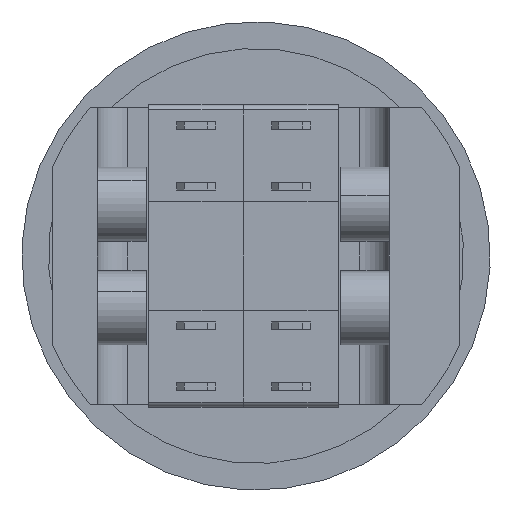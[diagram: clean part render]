
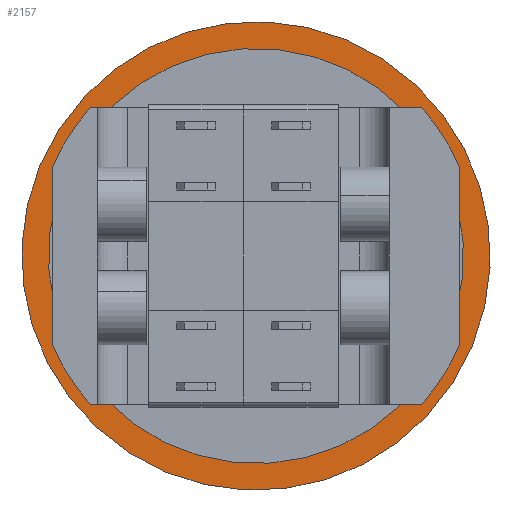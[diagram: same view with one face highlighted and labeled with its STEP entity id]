
A CAD part, front view. The second image highlights one B-rep face of the part: STEP entity #2157.
In plain terms, the highlighted planar face has unit normal (0, -1, 0) as drawn and (0, 0, -1) by its records, which use the part's own axes.
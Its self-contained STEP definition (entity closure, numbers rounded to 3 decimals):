
#17 = DIRECTION ( 'NONE',  ( 0., 0., 1. ) ) ;
#57 = ORIENTED_EDGE ( 'NONE', *, *, #2233, .F. ) ;
#178 = VERTEX_POINT ( 'NONE', #5266 ) ;
#328 = AXIS2_PLACEMENT_3D ( 'NONE', #3723, #3786, #5042 ) ;
#351 = VERTEX_POINT ( 'NONE', #3272 ) ;
#497 = EDGE_CURVE ( 'NONE', #3887, #351, #4491, .T. ) ;
#526 = CARTESIAN_POINT ( 'NONE',  ( 0., 0., -2.2 ) ) ;
#659 = CARTESIAN_POINT ( 'NONE',  ( -12.499, 1.593, -2.2 ) ) ;
#865 = ORIENTED_EDGE ( 'NONE', *, *, #5647, .T. ) ;
#1241 = DIRECTION ( 'NONE',  ( 0., 0., -1. ) ) ;
#1377 = VERTEX_POINT ( 'NONE', #4732 ) ;
#1795 = PLANE ( 'NONE',  #2616 ) ;
#2157 = ADVANCED_FACE ( 'NONE', ( #3062, #2263 ), #1795, .T. ) ;
#2233 = EDGE_CURVE ( 'NONE', #351, #3887, #5548, .T. ) ;
#2263 = FACE_OUTER_BOUND ( 'NONE', #7504, .T. ) ;
#2504 = DIRECTION ( 'NONE',  ( 0., 0., 1. ) ) ;
#2616 = AXIS2_PLACEMENT_3D ( 'NONE', #659, #1241, #6315 ) ;
#3062 = FACE_BOUND ( 'NONE', #3865, .T. ) ;
#3154 = DIRECTION ( 'NONE',  ( -0.992, 0.126, 0. ) ) ;
#3272 = CARTESIAN_POINT ( 'NONE',  ( 15.673, -1.997, -2.2 ) ) ;
#3331 = ORIENTED_EDGE ( 'NONE', *, *, #497, .F. ) ;
#3723 = CARTESIAN_POINT ( 'NONE',  ( 0., 0., -2.2 ) ) ;
#3786 = DIRECTION ( 'NONE',  ( 0., 0., 1. ) ) ;
#3865 = EDGE_LOOP ( 'NONE', ( #5246, #865 ) ) ;
#3887 = VERTEX_POINT ( 'NONE', #5401 ) ;
#4275 = CIRCLE ( 'NONE', #328, 12.6 ) ;
#4491 = CIRCLE ( 'NONE', #8114, 15.8 ) ;
#4497 = CARTESIAN_POINT ( 'NONE',  ( 0., 0., -2.2 ) ) ;
#4732 = CARTESIAN_POINT ( 'NONE',  ( 12.499, -1.593, -2.2 ) ) ;
#5005 = DIRECTION ( 'NONE',  ( -0.992, 0.126, 0. ) ) ;
#5042 = DIRECTION ( 'NONE',  ( -0.992, 0.126, 0. ) ) ;
#5220 = EDGE_CURVE ( 'NONE', #178, #1377, #4275, .T. ) ;
#5246 = ORIENTED_EDGE ( 'NONE', *, *, #5220, .T. ) ;
#5266 = CARTESIAN_POINT ( 'NONE',  ( -12.499, 1.593, -2.2 ) ) ;
#5401 = CARTESIAN_POINT ( 'NONE',  ( -15.673, 1.997, -2.2 ) ) ;
#5548 = CIRCLE ( 'NONE', #7124, 15.8 ) ;
#5641 = CARTESIAN_POINT ( 'NONE',  ( 0., 0., -2.2 ) ) ;
#5647 = EDGE_CURVE ( 'NONE', #1377, #178, #6445, .T. ) ;
#6315 = DIRECTION ( 'NONE',  ( 0.992, -0.126, 0. ) ) ;
#6445 = CIRCLE ( 'NONE', #8178, 12.6 ) ;
#6820 = DIRECTION ( 'NONE',  ( 0., 0., 1. ) ) ;
#6928 = DIRECTION ( 'NONE',  ( -0.992, 0.126, 0. ) ) ;
#7124 = AXIS2_PLACEMENT_3D ( 'NONE', #4497, #17, #3154 ) ;
#7504 = EDGE_LOOP ( 'NONE', ( #3331, #57 ) ) ;
#8114 = AXIS2_PLACEMENT_3D ( 'NONE', #526, #2504, #6928 ) ;
#8178 = AXIS2_PLACEMENT_3D ( 'NONE', #5641, #6820, #5005 ) ;
